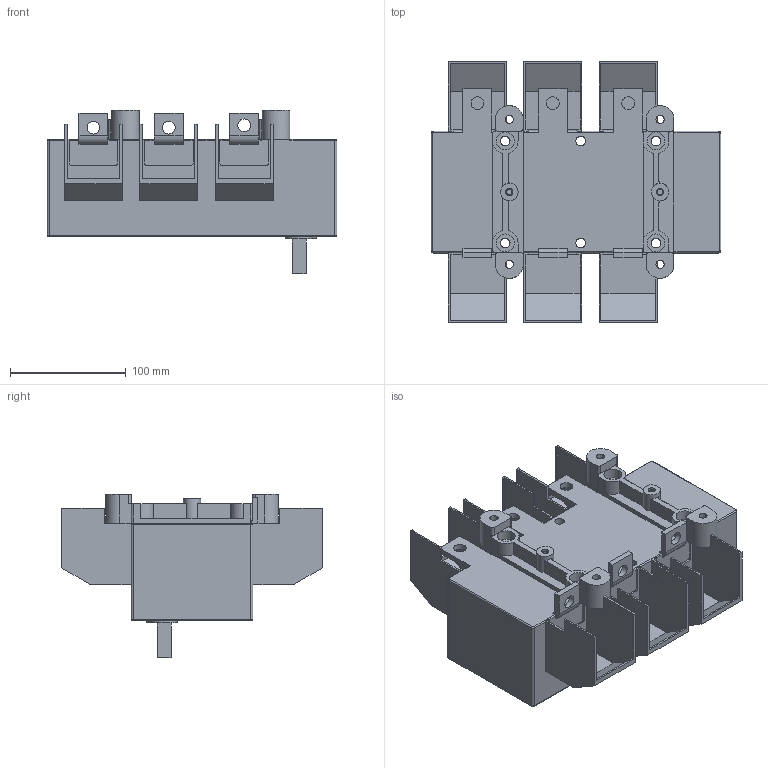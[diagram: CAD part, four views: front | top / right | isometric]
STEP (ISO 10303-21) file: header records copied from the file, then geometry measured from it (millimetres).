
FILE_DESCRIPTION(/* description */ (''),/* implementation_level */ '2;1');
FILE_NAME(/* name */ 'RA630 P3 A z oslona zaciskow.stp',/* time_stamp */ '2021-08-19T08:13:37+02:00',/* author */ (''),/* organization */ (''),/* preprocessor_version */ 'ST-DEVELOPER v18.1',/* originating_system */ 'SIEMENS PLM Software NX 1965',/* authorisation */ '');
FILE_SCHEMA (('AUTOMOTIVE_DESIGN { 1 0 10303 214 3 1 1 1 }'));
Length unit declared in the file: millimetre
Products named in the file (1): RA630 P3 A z oslona zaciskow_stp
Bounding box: 250 x 225 x 141 mm (x, y, z)
Volume: 2388806.8 mm3; surface area: 284802.2 mm2
Topology: 1 solids, 1 shells, 371 faces, 1051 edges, 680 vertices
Faces by surface type: plane 259, cylinder 104, torus 5, bspline 3
Full cylindrical faces by diameter (mm): 4.8 x2, 6.2 x2, 7 x4, 8.2 x6, 11 x6, 14 x4, 15 x2, 15.5 x4
Entity records: 11872 total; most frequent: CARTESIAN_POINT 2124, ORIENTED_EDGE 2026, DIRECTION 1991, EDGE_CURVE 1013, LINE 769, VECTOR 769, VERTEX_POINT 672, AXIS2_PLACEMENT_3D 611
